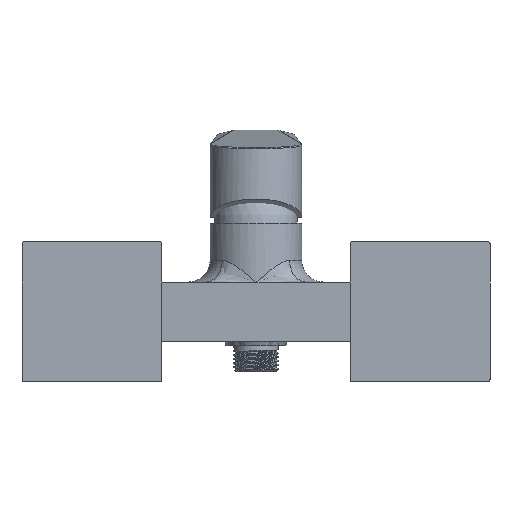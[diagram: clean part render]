
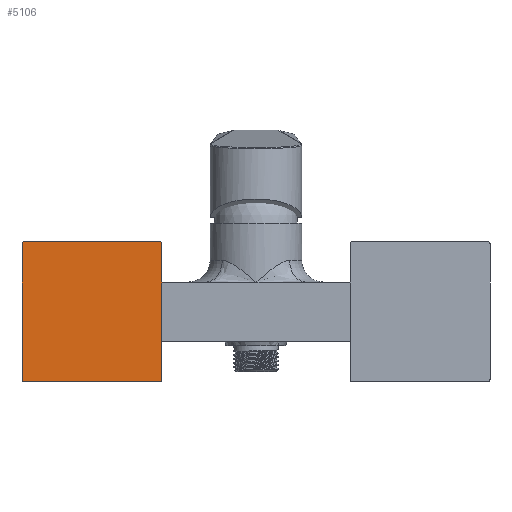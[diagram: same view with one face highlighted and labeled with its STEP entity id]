
A CAD part, left-side view. The second image highlights one B-rep face of the part: STEP entity #5106.
In plain terms, the highlighted planar face has unit normal (-1, 0, 0).
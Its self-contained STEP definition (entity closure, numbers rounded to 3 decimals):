
#2681=CIRCLE('',#53332,1.);
#2682=CIRCLE('',#53333,1.);
#2683=CIRCLE('',#53334,1.);
#2684=CIRCLE('',#53335,1.);
#5106=ADVANCED_FACE('',(#8949),#6625,.F.);
#6625=PLANE('',#53336);
#8949=FACE_OUTER_BOUND('',#12445,.T.);
#12445=EDGE_LOOP('',(#28355,#28356,#28357,#28358,#28359,#28360,#28361,#28362));
#28355=ORIENTED_EDGE('',*,*,#40401,.F.);
#28356=ORIENTED_EDGE('',*,*,#40410,.T.);
#28357=ORIENTED_EDGE('',*,*,#40397,.F.);
#28358=ORIENTED_EDGE('',*,*,#40411,.T.);
#28359=ORIENTED_EDGE('',*,*,#40405,.F.);
#28360=ORIENTED_EDGE('',*,*,#40412,.T.);
#28361=ORIENTED_EDGE('',*,*,#40413,.F.);
#28362=ORIENTED_EDGE('',*,*,#40414,.T.);
#33252=VERTEX_POINT('',#122737);
#33255=VERTEX_POINT('',#122742);
#33256=VERTEX_POINT('',#122746);
#33259=VERTEX_POINT('',#122751);
#33260=VERTEX_POINT('',#122755);
#33263=VERTEX_POINT('',#122760);
#33268=VERTEX_POINT('',#122775);
#33269=VERTEX_POINT('',#122777);
#40397=EDGE_CURVE('',#33255,#33252,#45464,.T.);
#40401=EDGE_CURVE('',#33259,#33256,#45468,.T.);
#40405=EDGE_CURVE('',#33263,#33260,#45472,.T.);
#40410=EDGE_CURVE('',#33259,#33252,#2681,.T.);
#40411=EDGE_CURVE('',#33255,#33260,#2682,.T.);
#40412=EDGE_CURVE('',#33263,#33268,#2683,.T.);
#40413=EDGE_CURVE('',#33269,#33268,#45477,.T.);
#40414=EDGE_CURVE('',#33269,#33256,#2684,.T.);
#45464=LINE('',#122743,#50459);
#45468=LINE('',#122752,#50463);
#45472=LINE('',#122761,#50467);
#45477=LINE('',#122776,#50472);
#50459=VECTOR('',#64040,1.);
#50463=VECTOR('',#64046,1.);
#50467=VECTOR('',#64052,1.);
#50472=VECTOR('',#64067,1.);
#53332=AXIS2_PLACEMENT_3D('',#122772,#64061,#64062);
#53333=AXIS2_PLACEMENT_3D('',#122773,#64063,#64064);
#53334=AXIS2_PLACEMENT_3D('',#122774,#64065,#64066);
#53335=AXIS2_PLACEMENT_3D('',#122778,#64068,#64069);
#53336=AXIS2_PLACEMENT_3D('',#122779,#64070,#64071);
#64040=DIRECTION('',(0.,0.,-1.));
#64046=DIRECTION('',(0.,1.,0.));
#64052=DIRECTION('',(0.,-1.,0.));
#64061=DIRECTION('',(-1.,0.,0.));
#64062=DIRECTION('',(0.,0.,-1.));
#64063=DIRECTION('',(-1.,0.,0.));
#64064=DIRECTION('',(0.,0.,-1.));
#64065=DIRECTION('',(-1.,0.,0.));
#64066=DIRECTION('',(0.,0.,-1.));
#64067=DIRECTION('',(0.,0.,1.));
#64068=DIRECTION('',(-1.,0.,0.));
#64069=DIRECTION('',(0.,0.,-1.));
#64070=DIRECTION('',(1.,0.,0.));
#64071=DIRECTION('',(0.,0.,-1.));
#122737=CARTESIAN_POINT('',(-50.7,42.959,-30.998));
#122742=CARTESIAN_POINT('',(-50.7,42.959,31.002));
#122743=CARTESIAN_POINT('',(-50.7,42.959,0.002));
#122746=CARTESIAN_POINT('',(-50.7,105.959,-31.998));
#122751=CARTESIAN_POINT('',(-50.7,43.959,-31.998));
#122752=CARTESIAN_POINT('',(-50.7,74.959,-31.998));
#122755=CARTESIAN_POINT('',(-50.7,43.959,32.002));
#122760=CARTESIAN_POINT('',(-50.7,105.959,32.002));
#122761=CARTESIAN_POINT('',(-50.7,74.959,32.002));
#122772=CARTESIAN_POINT('',(-50.7,43.959,-30.998));
#122773=CARTESIAN_POINT('',(-50.7,43.959,31.002));
#122774=CARTESIAN_POINT('',(-50.7,105.959,31.002));
#122775=CARTESIAN_POINT('',(-50.7,106.959,31.002));
#122776=CARTESIAN_POINT('',(-50.7,106.959,-31.998));
#122777=CARTESIAN_POINT('',(-50.7,106.959,-30.998));
#122778=CARTESIAN_POINT('',(-50.7,105.959,-30.998));
#122779=CARTESIAN_POINT('',(-50.7,74.98,0.002));
